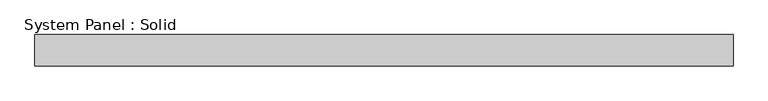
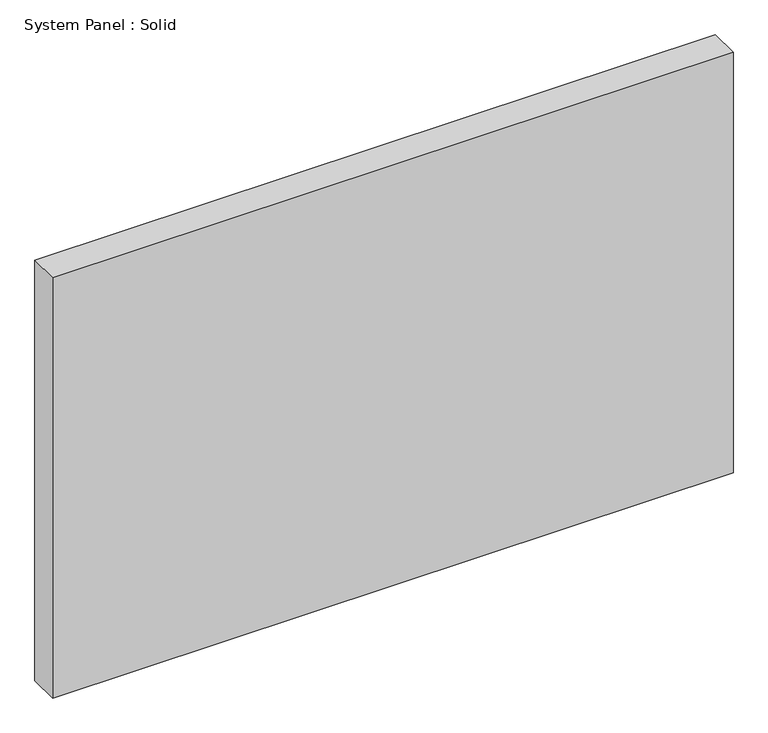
"""IFC4 building model written with IfcOpenShell, lengths in millimetres: plate geometry, System Panel : Solid."""

from ifc_helpers import new_model, si_unit, origin, origin_with_axes, place, context, project, spatial, polyline, outline, extrude, source, transform, mapped, element, save


def system_panel_solid_d9ae02de(model_context):
    return source(origin(), model_context, "Body", "SweptSolid", [
        extrude(outline(polyline([(705.1113156, -19.05), (-705.1113156, -19.05), (-705.1113156, 44.45), (705.1113156, 44.45), (705.1113156, -19.05)])), origin_with_axes(), (0.0, 0.0, 1.0), 920.75),
    ])


if __name__ == "__main__":
    model = new_model("IFC4")
    model_context = context("Model", 3, world=origin())
    ifc_project = project(units=[si_unit("LENGTHUNIT", "METRE", prefix="MILLI")], contexts=[model_context])
    site = spatial("IfcSite", under=ifc_project)
    building = spatial("IfcBuilding", under=site)
    placement = place(None, origin())
    system_panel_solid_shape = system_panel_solid_d9ae02de(model_context)
    element("IfcPlate", 1, ObjectType="System Panel : Solid", at=placement, inside=building, context=model_context, shape_type="MappedRepresentation", body=[
        mapped(system_panel_solid_shape, transform((0.0, 0.0, 0.0), x_axis=(1.0, 0.0, 0.0), y_axis=(0.0, 1.0, 0.0), z_axis=(0.0, 0.0, 1.0))),
    ])
    save(model, "model.ifc")
